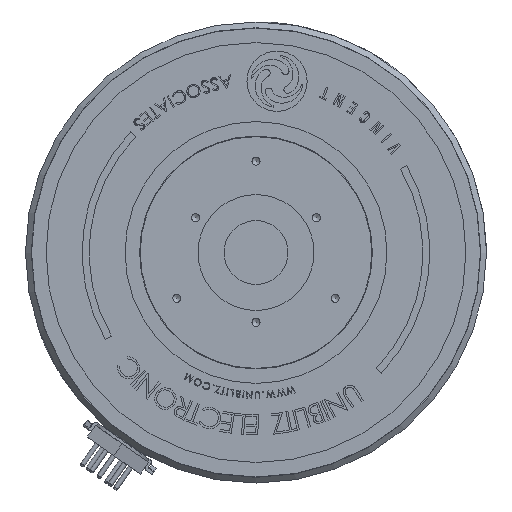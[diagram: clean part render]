
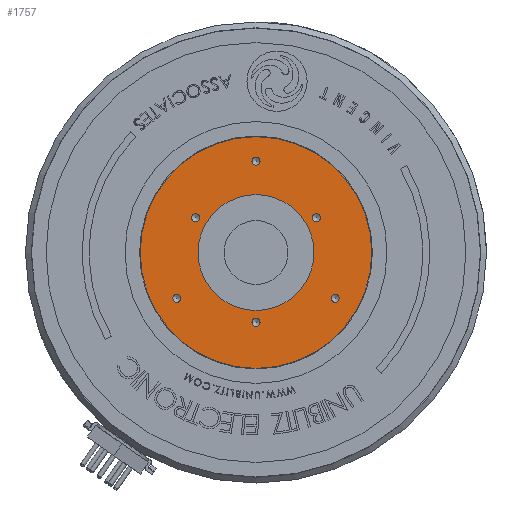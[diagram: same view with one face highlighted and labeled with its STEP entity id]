
A CAD part, front view. The second image highlights one B-rep face of the part: STEP entity #1757.
In plain terms, the highlighted planar face has unit normal (0, -1, 0).
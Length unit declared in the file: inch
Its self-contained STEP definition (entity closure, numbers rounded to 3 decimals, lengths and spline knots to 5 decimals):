
#549 = EDGE_CURVE ( 'NONE', #33743, #33743, #16099, .T. ) ;
#565 = DIRECTION ( 'NONE',  ( 0., -1., 0. ) ) ;
#814 = DIRECTION ( 'NONE',  ( 0., 0., -1. ) ) ;
#1044 = AXIS2_PLACEMENT_3D ( 'NONE', #28175, #4257, #15931 ) ;
#1350 = EDGE_LOOP ( 'NONE', ( #35621 ) ) ;
#1690 = DIRECTION ( 'NONE',  ( 0., 0., -1. ) ) ;
#1757 = ADVANCED_FACE ( 'NONE', ( #21943, #18024, #14924, #26140, #7152, #37783, #38273, #18787 ), #41932, .F. ) ;
#2190 = CARTESIAN_POINT ( 'NONE',  ( 0., 0., 1. ) ) ;
#2274 = AXIS2_PLACEMENT_3D ( 'NONE', #39773, #50431, #14886 ) ;
#2807 = VERTEX_POINT ( 'NONE', #43092 ) ;
#3229 = DIRECTION ( 'NONE',  ( 0., 1., 0. ) ) ;
#3599 = AXIS2_PLACEMENT_3D ( 'NONE', #49575, #10641, #18928 ) ;
#3828 = AXIS2_PLACEMENT_3D ( 'NONE', #34654, #4716, #814 ) ;
#4257 = DIRECTION ( 'NONE',  ( 0., -1., 0. ) ) ;
#4716 = DIRECTION ( 'NONE',  ( 0., -1., 0. ) ) ;
#6082 = EDGE_CURVE ( 'NONE', #50576, #50576, #13482, .T. ) ;
#6372 = VERTEX_POINT ( 'NONE', #46851 ) ;
#6933 = CIRCLE ( 'NONE', #35140, 0.035 ) ;
#7152 = FACE_BOUND ( 'NONE', #48275, .T. ) ;
#7183 = EDGE_CURVE ( 'NONE', #2807, #2807, #10106, .T. ) ;
#7333 = ORIENTED_EDGE ( 'NONE', *, *, #6082, .F. ) ;
#8948 = VERTEX_POINT ( 'NONE', #11785 ) ;
#10106 = CIRCLE ( 'NONE', #43291, 0.035 ) ;
#10114 = CARTESIAN_POINT ( 'NONE',  ( 0., 0., -0.5 ) ) ;
#10641 = DIRECTION ( 'NONE',  ( 0., -1., 0. ) ) ;
#10762 = VERTEX_POINT ( 'NONE', #35161 ) ;
#11512 = DIRECTION ( 'NONE',  ( 0., 0., -1. ) ) ;
#11549 = CARTESIAN_POINT ( 'NONE',  ( 0.68329, 0., -0.4295 ) ) ;
#11785 = CARTESIAN_POINT ( 'NONE',  ( 0., 0., -1. ) ) ;
#13394 = CARTESIAN_POINT ( 'NONE',  ( 0., 0., -0.637 ) ) ;
#13414 = DIRECTION ( 'NONE',  ( 0., -1., 0. ) ) ;
#13482 = CIRCLE ( 'NONE', #1044, 0.035 ) ;
#13916 = CIRCLE ( 'NONE', #2274, 1. ) ;
#13998 = CIRCLE ( 'NONE', #27303, 0.035 ) ;
#14886 = DIRECTION ( 'NONE',  ( 0., 0., -1. ) ) ;
#14924 = FACE_BOUND ( 'NONE', #37114, .T. ) ;
#15931 = DIRECTION ( 'NONE',  ( 0., 0., -1. ) ) ;
#16099 = CIRCLE ( 'NONE', #45136, 0.5 ) ;
#16521 = EDGE_LOOP ( 'NONE', ( #7333 ) ) ;
#16995 = VERTEX_POINT ( 'NONE', #13394 ) ;
#17885 = CIRCLE ( 'NONE', #3828, 0.035 ) ;
#18024 = FACE_BOUND ( 'NONE', #28054, .T. ) ;
#18787 = FACE_BOUND ( 'NONE', #1350, .T. ) ;
#18928 = DIRECTION ( 'NONE',  ( 0., 0., -1. ) ) ;
#20074 = ORIENTED_EDGE ( 'NONE', *, *, #38058, .F. ) ;
#20913 = CARTESIAN_POINT ( 'NONE',  ( 0., 0., 0. ) ) ;
#21943 = FACE_OUTER_BOUND ( 'NONE', #36613, .T. ) ;
#24187 = EDGE_LOOP ( 'NONE', ( #32132 ) ) ;
#26140 = FACE_BOUND ( 'NONE', #43380, .T. ) ;
#26650 = DIRECTION ( 'NONE',  ( 0., 0., 1. ) ) ;
#27045 = DIRECTION ( 'NONE',  ( 0., 0., -1. ) ) ;
#27303 = AXIS2_PLACEMENT_3D ( 'NONE', #48708, #13414, #1690 ) ;
#28054 = EDGE_LOOP ( 'NONE', ( #37069 ) ) ;
#28089 = ORIENTED_EDGE ( 'NONE', *, *, #7183, .F. ) ;
#28175 = CARTESIAN_POINT ( 'NONE',  ( 0.52135, 0., 0.301 ) ) ;
#28984 = DIRECTION ( 'NONE',  ( 0., 0., -1. ) ) ;
#30869 = CARTESIAN_POINT ( 'NONE',  ( 0.52135, 0., 0.266 ) ) ;
#31338 = EDGE_CURVE ( 'NONE', #16995, #16995, #6933, .T. ) ;
#32132 = ORIENTED_EDGE ( 'NONE', *, *, #37471, .F. ) ;
#33743 = VERTEX_POINT ( 'NONE', #10114 ) ;
#33774 = EDGE_CURVE ( 'NONE', #6372, #6372, #17885, .T. ) ;
#34654 = CARTESIAN_POINT ( 'NONE',  ( -0.52135, 0., 0.301 ) ) ;
#35140 = AXIS2_PLACEMENT_3D ( 'NONE', #35824, #51368, #27045 ) ;
#35161 = CARTESIAN_POINT ( 'NONE',  ( -0.68329, 0., -0.4295 ) ) ;
#35597 = AXIS2_PLACEMENT_3D ( 'NONE', #2190, #3229, #26650 ) ;
#35621 = ORIENTED_EDGE ( 'NONE', *, *, #33774, .F. ) ;
#35824 = CARTESIAN_POINT ( 'NONE',  ( 0., 0., -0.602 ) ) ;
#36317 = EDGE_CURVE ( 'NONE', #10762, #10762, #44228, .T. ) ;
#36613 = EDGE_LOOP ( 'NONE', ( #20074 ) ) ;
#36752 = DIRECTION ( 'NONE',  ( 0., -1., 0. ) ) ;
#37069 = ORIENTED_EDGE ( 'NONE', *, *, #549, .F. ) ;
#37114 = EDGE_LOOP ( 'NONE', ( #28089 ) ) ;
#37471 = EDGE_CURVE ( 'NONE', #47122, #47122, #13998, .T. ) ;
#37783 = FACE_BOUND ( 'NONE', #24187, .T. ) ;
#38058 = EDGE_CURVE ( 'NONE', #8948, #8948, #13916, .T. ) ;
#38273 = FACE_BOUND ( 'NONE', #16521, .T. ) ;
#39773 = CARTESIAN_POINT ( 'NONE',  ( 0., 0., 0. ) ) ;
#41932 = PLANE ( 'NONE',  #35597 ) ;
#43092 = CARTESIAN_POINT ( 'NONE',  ( 0., 0., 0.754 ) ) ;
#43291 = AXIS2_PLACEMENT_3D ( 'NONE', #43428, #565, #11512 ) ;
#43380 = EDGE_LOOP ( 'NONE', ( #50816 ) ) ;
#43428 = CARTESIAN_POINT ( 'NONE',  ( 0., 0., 0.789 ) ) ;
#44228 = CIRCLE ( 'NONE', #3599, 0.035 ) ;
#45051 = ORIENTED_EDGE ( 'NONE', *, *, #36317, .F. ) ;
#45136 = AXIS2_PLACEMENT_3D ( 'NONE', #20913, #36752, #28984 ) ;
#46851 = CARTESIAN_POINT ( 'NONE',  ( -0.52135, 0., 0.266 ) ) ;
#47122 = VERTEX_POINT ( 'NONE', #11549 ) ;
#48275 = EDGE_LOOP ( 'NONE', ( #45051 ) ) ;
#48708 = CARTESIAN_POINT ( 'NONE',  ( 0.68329, 0., -0.3945 ) ) ;
#49575 = CARTESIAN_POINT ( 'NONE',  ( -0.68329, 0., -0.3945 ) ) ;
#50431 = DIRECTION ( 'NONE',  ( 0., 1., 0. ) ) ;
#50576 = VERTEX_POINT ( 'NONE', #30869 ) ;
#50816 = ORIENTED_EDGE ( 'NONE', *, *, #31338, .F. ) ;
#51368 = DIRECTION ( 'NONE',  ( 0., -1., 0. ) ) ;
